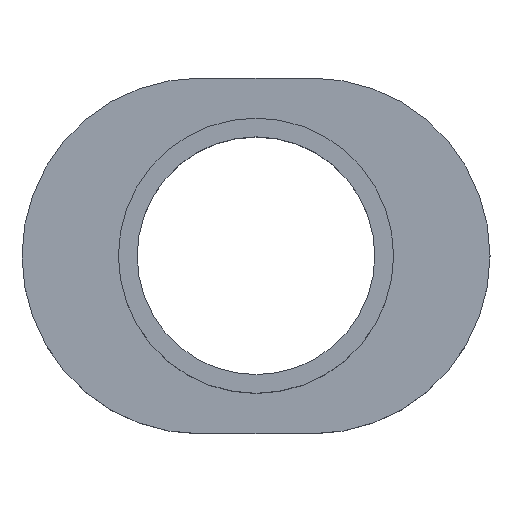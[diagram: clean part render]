
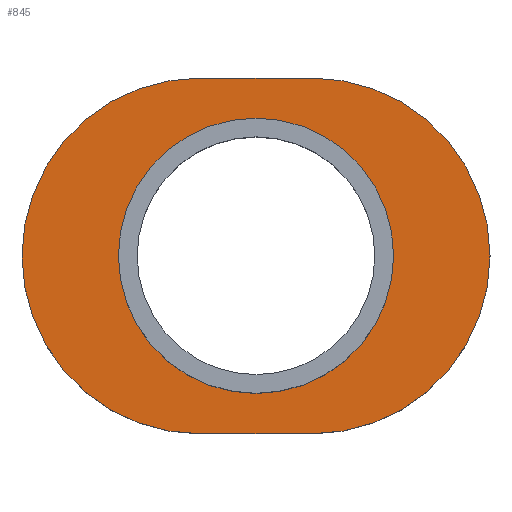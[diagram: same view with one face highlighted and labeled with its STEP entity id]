
A CAD part, top view. The second image highlights one B-rep face of the part: STEP entity #845.
In plain terms, the highlighted planar face has unit normal (0, 0, 1).
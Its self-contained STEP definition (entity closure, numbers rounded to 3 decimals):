
#21 = EDGE_CURVE('',#22,#24,#26,.T.);
#22 = VERTEX_POINT('',#23);
#23 = CARTESIAN_POINT('',(6.,19.,7.7));
#24 = VERTEX_POINT('',#25);
#25 = CARTESIAN_POINT('',(6.,-19.,7.7));
#26 = SURFACE_CURVE('',#27,(#32,#44),.PCURVE_S1.);
#27 = CIRCLE('',#28,19.);
#28 = AXIS2_PLACEMENT_3D('',#29,#30,#31);
#29 = CARTESIAN_POINT('',(6.,0.,7.7));
#30 = DIRECTION('',(0.,0.,-1.));
#31 = DIRECTION('',(0.,1.,0.));
#32 = PCURVE('',#33,#38);
#33 = CYLINDRICAL_SURFACE('',#34,19.);
#34 = AXIS2_PLACEMENT_3D('',#35,#36,#37);
#35 = CARTESIAN_POINT('',(6.,0.,0.));
#36 = DIRECTION('',(0.,0.,1.));
#37 = DIRECTION('',(1.,0.,-0.));
#38 = DEFINITIONAL_REPRESENTATION('',(#39),#43);
#39 = LINE('',#40,#41);
#40 = CARTESIAN_POINT('',(7.854,7.7));
#41 = VECTOR('',#42,1.);
#42 = DIRECTION('',(-1.,-0.));
#43 = ( GEOMETRIC_REPRESENTATION_CONTEXT(2) 
PARAMETRIC_REPRESENTATION_CONTEXT() REPRESENTATION_CONTEXT('2D SPACE',''
  ) );
#44 = PCURVE('',#45,#50);
#45 = PLANE('',#46);
#46 = AXIS2_PLACEMENT_3D('',#47,#48,#49);
#47 = CARTESIAN_POINT('',(6.,0.,7.7));
#48 = DIRECTION('',(0.,0.,1.));
#49 = DIRECTION('',(1.,0.,-0.));
#50 = DEFINITIONAL_REPRESENTATION('',(#51),#59);
#51 = ( BOUNDED_CURVE() B_SPLINE_CURVE(2,(#52,#53,#54,#55,#56,#57,#58),
.UNSPECIFIED.,.T.,.F.) B_SPLINE_CURVE_WITH_KNOTS((1,2,2,2,2,1),(
    -2.094,0.,2.094,4.189,6.283,
8.378),.UNSPECIFIED.) CURVE() GEOMETRIC_REPRESENTATION_ITEM() 
RATIONAL_B_SPLINE_CURVE((1.,0.5,1.,0.5,1.,0.5,1.)) REPRESENTATION_ITEM(
  '') );
#52 = CARTESIAN_POINT('',(0.,19.));
#53 = CARTESIAN_POINT('',(32.909,19.));
#54 = CARTESIAN_POINT('',(16.454,-9.5));
#55 = CARTESIAN_POINT('',(0.,-38.));
#56 = CARTESIAN_POINT('',(-16.454,-9.5));
#57 = CARTESIAN_POINT('',(-32.909,19.));
#58 = CARTESIAN_POINT('',(0.,19.));
#59 = ( GEOMETRIC_REPRESENTATION_CONTEXT(2) 
PARAMETRIC_REPRESENTATION_CONTEXT() REPRESENTATION_CONTEXT('2D SPACE',''
  ) );
#77 = PLANE('',#78);
#78 = AXIS2_PLACEMENT_3D('',#79,#80,#81);
#79 = CARTESIAN_POINT('',(-6.,-19.,0.));
#80 = DIRECTION('',(-0.,1.,0.));
#81 = DIRECTION('',(0.,0.,1.));
#132 = PLANE('',#133);
#133 = AXIS2_PLACEMENT_3D('',#134,#135,#136);
#134 = CARTESIAN_POINT('',(-6.,19.,0.));
#135 = DIRECTION('',(-0.,1.,0.));
#136 = DIRECTION('',(0.,0.,1.));
#172 = VERTEX_POINT('',#173);
#173 = CARTESIAN_POINT('',(-6.,19.,7.7));
#187 = CYLINDRICAL_SURFACE('',#188,19.);
#188 = AXIS2_PLACEMENT_3D('',#189,#190,#191);
#189 = CARTESIAN_POINT('',(-6.,0.,0.));
#190 = DIRECTION('',(0.,0.,1.));
#191 = DIRECTION('',(1.,0.,-0.));
#199 = EDGE_CURVE('',#172,#22,#200,.T.);
#200 = SURFACE_CURVE('',#201,(#205,#212),.PCURVE_S1.);
#201 = LINE('',#202,#203);
#202 = CARTESIAN_POINT('',(-6.,19.,7.7));
#203 = VECTOR('',#204,1.);
#204 = DIRECTION('',(1.,0.,-0.));
#205 = PCURVE('',#132,#206);
#206 = DEFINITIONAL_REPRESENTATION('',(#207),#211);
#207 = LINE('',#208,#209);
#208 = CARTESIAN_POINT('',(7.7,0.));
#209 = VECTOR('',#210,1.);
#210 = DIRECTION('',(0.,1.));
#211 = ( GEOMETRIC_REPRESENTATION_CONTEXT(2) 
PARAMETRIC_REPRESENTATION_CONTEXT() REPRESENTATION_CONTEXT('2D SPACE',''
  ) );
#212 = PCURVE('',#45,#213);
#213 = DEFINITIONAL_REPRESENTATION('',(#214),#218);
#214 = LINE('',#215,#216);
#215 = CARTESIAN_POINT('',(-12.,19.));
#216 = VECTOR('',#217,1.);
#217 = DIRECTION('',(1.,0.));
#218 = ( GEOMETRIC_REPRESENTATION_CONTEXT(2) 
PARAMETRIC_REPRESENTATION_CONTEXT() REPRESENTATION_CONTEXT('2D SPACE',''
  ) );
#223 = EDGE_CURVE('',#172,#224,#226,.T.);
#224 = VERTEX_POINT('',#225);
#225 = CARTESIAN_POINT('',(-6.,-19.,7.7));
#226 = SURFACE_CURVE('',#227,(#232,#239),.PCURVE_S1.);
#227 = CIRCLE('',#228,19.);
#228 = AXIS2_PLACEMENT_3D('',#229,#230,#231);
#229 = CARTESIAN_POINT('',(-6.,0.,7.7));
#230 = DIRECTION('',(0.,0.,1.));
#231 = DIRECTION('',(1.,0.,-0.));
#232 = PCURVE('',#187,#233);
#233 = DEFINITIONAL_REPRESENTATION('',(#234),#238);
#234 = LINE('',#235,#236);
#235 = CARTESIAN_POINT('',(0.,7.7));
#236 = VECTOR('',#237,1.);
#237 = DIRECTION('',(1.,0.));
#238 = ( GEOMETRIC_REPRESENTATION_CONTEXT(2) 
PARAMETRIC_REPRESENTATION_CONTEXT() REPRESENTATION_CONTEXT('2D SPACE',''
  ) );
#239 = PCURVE('',#45,#240);
#240 = DEFINITIONAL_REPRESENTATION('',(#241),#245);
#241 = CIRCLE('',#242,19.);
#242 = AXIS2_PLACEMENT_2D('',#243,#244);
#243 = CARTESIAN_POINT('',(-12.,0.));
#244 = DIRECTION('',(1.,0.));
#245 = ( GEOMETRIC_REPRESENTATION_CONTEXT(2) 
PARAMETRIC_REPRESENTATION_CONTEXT() REPRESENTATION_CONTEXT('2D SPACE',''
  ) );
#689 = CYLINDRICAL_SURFACE('',#690,14.7);
#690 = AXIS2_PLACEMENT_3D('',#691,#692,#693);
#691 = CARTESIAN_POINT('',(0.,0.,7.2));
#692 = DIRECTION('',(0.,0.,1.));
#693 = DIRECTION('',(1.,0.,-0.));
#708 = VERTEX_POINT('',#709);
#709 = CARTESIAN_POINT('',(14.7,0.,7.7));
#732 = EDGE_CURVE('',#708,#708,#733,.T.);
#733 = SURFACE_CURVE('',#734,(#739,#746),.PCURVE_S1.);
#734 = CIRCLE('',#735,14.7);
#735 = AXIS2_PLACEMENT_3D('',#736,#737,#738);
#736 = CARTESIAN_POINT('',(0.,0.,7.7));
#737 = DIRECTION('',(0.,0.,-1.));
#738 = DIRECTION('',(1.,0.,0.));
#739 = PCURVE('',#689,#740);
#740 = DEFINITIONAL_REPRESENTATION('',(#741),#745);
#741 = LINE('',#742,#743);
#742 = CARTESIAN_POINT('',(6.283,0.5));
#743 = VECTOR('',#744,1.);
#744 = DIRECTION('',(-1.,-0.));
#745 = ( GEOMETRIC_REPRESENTATION_CONTEXT(2) 
PARAMETRIC_REPRESENTATION_CONTEXT() REPRESENTATION_CONTEXT('2D SPACE',''
  ) );
#746 = PCURVE('',#45,#747);
#747 = DEFINITIONAL_REPRESENTATION('',(#748),#756);
#748 = ( BOUNDED_CURVE() B_SPLINE_CURVE(2,(#749,#750,#751,#752,#753,#754
,#755),.UNSPECIFIED.,.T.,.F.) B_SPLINE_CURVE_WITH_KNOTS((1,2,2,2,2,1),(
    -2.094,0.,2.094,4.189,6.283,
8.378),.UNSPECIFIED.) CURVE() GEOMETRIC_REPRESENTATION_ITEM() 
RATIONAL_B_SPLINE_CURVE((1.,0.5,1.,0.5,1.,0.5,1.)) REPRESENTATION_ITEM(
  '') );
#749 = CARTESIAN_POINT('',(8.7,0.));
#750 = CARTESIAN_POINT('',(8.7,-25.461));
#751 = CARTESIAN_POINT('',(-13.35,-12.731));
#752 = CARTESIAN_POINT('',(-35.4,0.));
#753 = CARTESIAN_POINT('',(-13.35,12.731));
#754 = CARTESIAN_POINT('',(8.7,25.461));
#755 = CARTESIAN_POINT('',(8.7,0.));
#756 = ( GEOMETRIC_REPRESENTATION_CONTEXT(2) 
PARAMETRIC_REPRESENTATION_CONTEXT() REPRESENTATION_CONTEXT('2D SPACE',''
  ) );
#824 = EDGE_CURVE('',#224,#24,#825,.T.);
#825 = SURFACE_CURVE('',#826,(#830,#837),.PCURVE_S1.);
#826 = LINE('',#827,#828);
#827 = CARTESIAN_POINT('',(-6.,-19.,7.7));
#828 = VECTOR('',#829,1.);
#829 = DIRECTION('',(1.,0.,-0.));
#830 = PCURVE('',#77,#831);
#831 = DEFINITIONAL_REPRESENTATION('',(#832),#836);
#832 = LINE('',#833,#834);
#833 = CARTESIAN_POINT('',(7.7,0.));
#834 = VECTOR('',#835,1.);
#835 = DIRECTION('',(0.,1.));
#836 = ( GEOMETRIC_REPRESENTATION_CONTEXT(2) 
PARAMETRIC_REPRESENTATION_CONTEXT() REPRESENTATION_CONTEXT('2D SPACE',''
  ) );
#837 = PCURVE('',#45,#838);
#838 = DEFINITIONAL_REPRESENTATION('',(#839),#843);
#839 = LINE('',#840,#841);
#840 = CARTESIAN_POINT('',(-12.,-19.));
#841 = VECTOR('',#842,1.);
#842 = DIRECTION('',(1.,0.));
#843 = ( GEOMETRIC_REPRESENTATION_CONTEXT(2) 
PARAMETRIC_REPRESENTATION_CONTEXT() REPRESENTATION_CONTEXT('2D SPACE',''
  ) );
#845 = ADVANCED_FACE('',(#846,#849),#45,.T.);
#846 = FACE_BOUND('',#847,.T.);
#847 = EDGE_LOOP('',(#848));
#848 = ORIENTED_EDGE('',*,*,#732,.T.);
#849 = FACE_BOUND('',#850,.T.);
#850 = EDGE_LOOP('',(#851,#852,#853,#854));
#851 = ORIENTED_EDGE('',*,*,#21,.F.);
#852 = ORIENTED_EDGE('',*,*,#199,.F.);
#853 = ORIENTED_EDGE('',*,*,#223,.T.);
#854 = ORIENTED_EDGE('',*,*,#824,.T.);
